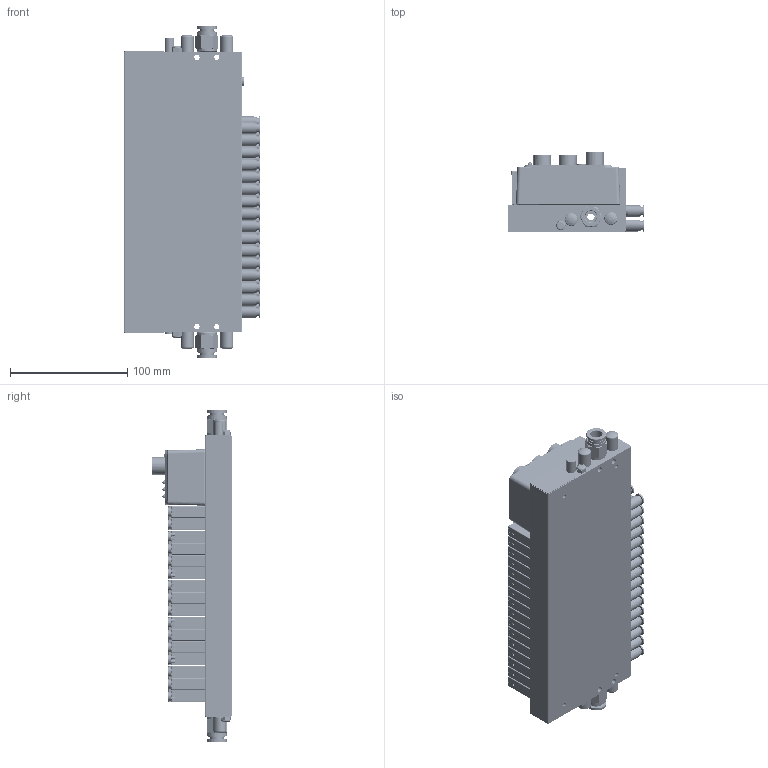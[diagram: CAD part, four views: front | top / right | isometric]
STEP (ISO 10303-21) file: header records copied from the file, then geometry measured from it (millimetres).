
FILE_DESCRIPTION(/* description */ (''),/* implementation_level */ '2;1');
FILE_NAME(/* name */ 'EV-PN-F1-H16-L-12-04-A-E-C_stp.stp',/* time_stamp */ '2025-09-20T13:31:35+08:00',/* author */ (''),/* organization */ (''),/* preprocessor_version */ 'ST-DEVELOPER v19.4',/* originating_system */ 'SIEMENS PLM Software NX2212.7001',/* authorisation */ '');
FILE_SCHEMA (('AUTOMOTIVE_DESIGN { 1 0 10303 214 3 1 1 1 }'));
Products named in the file (1): EV-PN-F1-H16-L-12-04-A-E-C_stp_objects
Bounding box: 116.5 x 68 x 283.6 mm (x, y, z)
Volume: 1012233 mm3; surface area: 364366.4 mm2
Topology: 63 solids, 112 shells, 8439 faces, 19976 edges, 12417 vertices
Faces by surface type: plane 3303, cylinder 3109, torus 968, cone 541, sphere 284, bspline 234
Full cylindrical faces by diameter (mm): 1 x5, 1.05 x5, 1.5 x16, 1.55 x16, 1.7 x8, 2.05 x4, 2.15 x2, 2.3 x4, 2.48 x4, 2.5 x3, 2.8 x4, 3.3 x4, 3.446 x6, 3.5 x23, 3.7 x1, 4 x44, 4.134 x5, 4.3 x4, 4.5 x68, 5.1 x32, 5.3 x64, 5.4 x2, 5.5 x2, 5.9 x32, 5.917 x16, 6 x4, 6.2 x64, 6.3 x32, 6.5 x16, 6.8 x32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
Entity records: 269628 total; most frequent: CARTESIAN_POINT 53541, DIRECTION 40210, ORIENTED_EDGE 34400, EDGE_CURVE 17200, AXIS2_PLACEMENT_3D 16260, VERTEX_POINT 11631, EDGE_LOOP 11371, ADVANCED_FACE 8439
